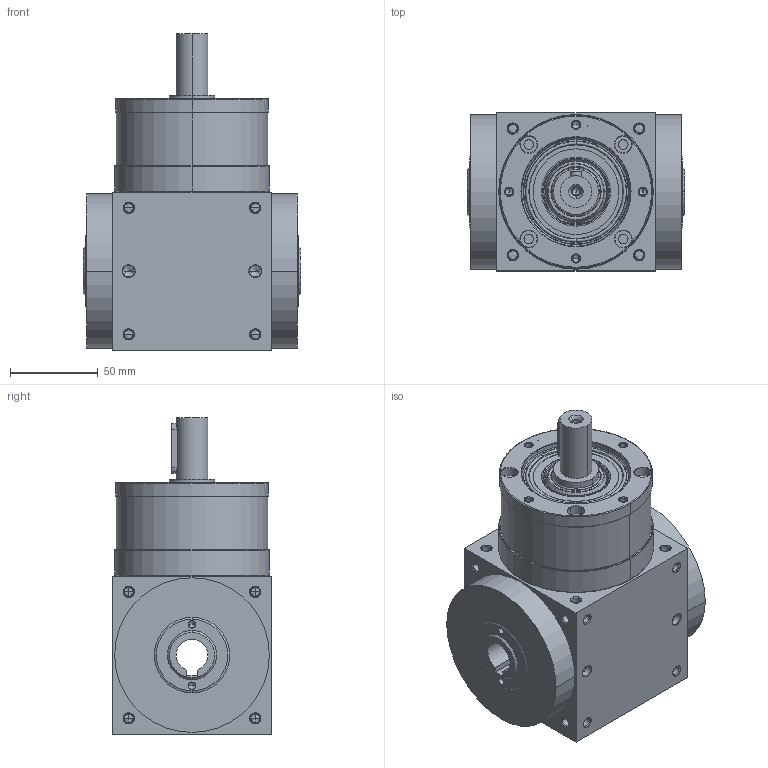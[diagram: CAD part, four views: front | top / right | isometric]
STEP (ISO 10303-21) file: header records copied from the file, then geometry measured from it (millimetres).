
FILE_DESCRIPTION((''),'2;1');
FILE_NAME('AT090H-1_ASM','2015-01-13T',('d01834'),(''),'PRO/ENGINEER BY PARAMETRIC TECHNOLOGY CORPORATION, 2008410','PRO/ENGINEER BY PARAMETRIC TECHNOLOGY CORPORATION, 2008410','');
FILE_SCHEMA(('CONFIG_CONTROL_DESIGN'));
Length unit declared in the file: millimetre
Products named in the file (6): AT090H-1; P1801400001; 22400071004; P1208400001; P0904401001; AT090H-1_ASM
Assembly tree (5 placements, depth 2):
  AT090H-1_ASM
    AT090H-1
    P1801400001
    22400071004
    P1208400001
    P0904401001
Bounding box: 124 x 90 x 180 mm (x, y, z)
Volume: 1084952.4 mm3; surface area: 134608.3 mm2
Topology: 6 solids, 36 shells, 597 faces, 1481 edges, 872 vertices
Faces by surface type: cylinder 259, cone 220, plane 76, torus 38, bspline 4
Entity records: 18257 total; most frequent: CARTESIAN_POINT 4078, DIRECTION 3173, ORIENTED_EDGE 2700, EDGE_CURVE 1409, AXIS2_PLACEMENT_3D 1328, VERTEX_POINT 872, CIRCLE 716, EDGE_LOOP 698
